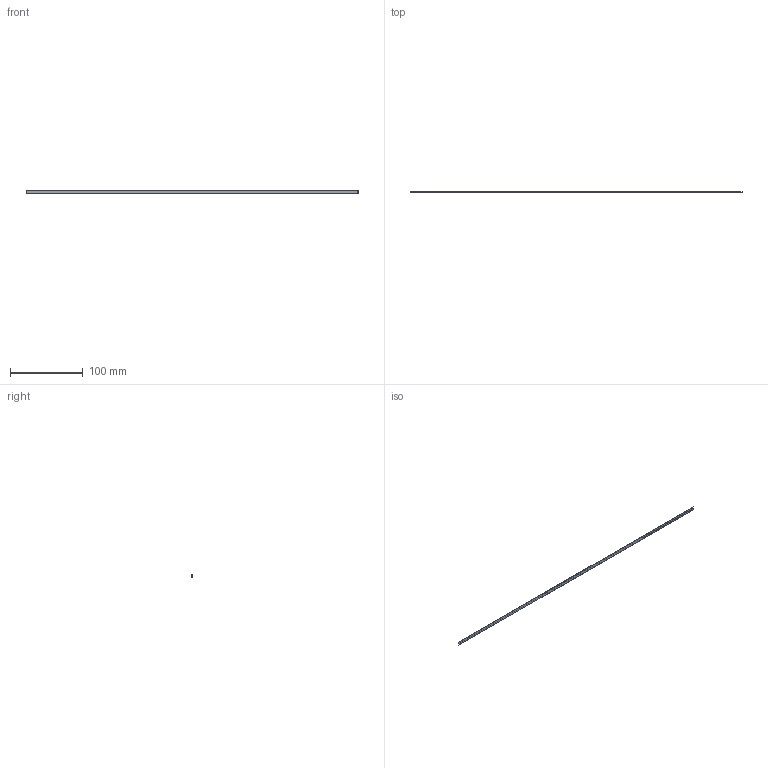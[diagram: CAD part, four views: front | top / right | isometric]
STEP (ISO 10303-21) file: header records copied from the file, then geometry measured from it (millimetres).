
FILE_DESCRIPTION (( 'STEP AP203' ), '1' );
FILE_NAME ('SI80-NI-450.STEP', '2025-03-25T11:47:43', ( '' ), ( '' ), 'SwSTEP 2.0', 'SolidWorks 2023', '' );
FILE_SCHEMA (( 'CONFIG_CONTROL_DESIGN' ));
Length unit declared in the file: millimetre
Products named in the file (1): SI80-NI-450
Bounding box: 455 x 0.26 x 5 mm (x, y, z)
Volume: 587.9 mm3; surface area: 4793.7 mm2
Topology: 1 solids, 1 shells, 391 faces, 1008 edges, 672 vertices
Faces by surface type: plane 217, bspline 174
Entity records: 22147 total; most frequent: CARTESIAN_POINT 13718, ORIENTED_EDGE 2016, DIRECTION 1096, EDGE_CURVE 1008, VERTEX_POINT 672, VECTOR 660, LINE 660, EDGE_LOOP 444
